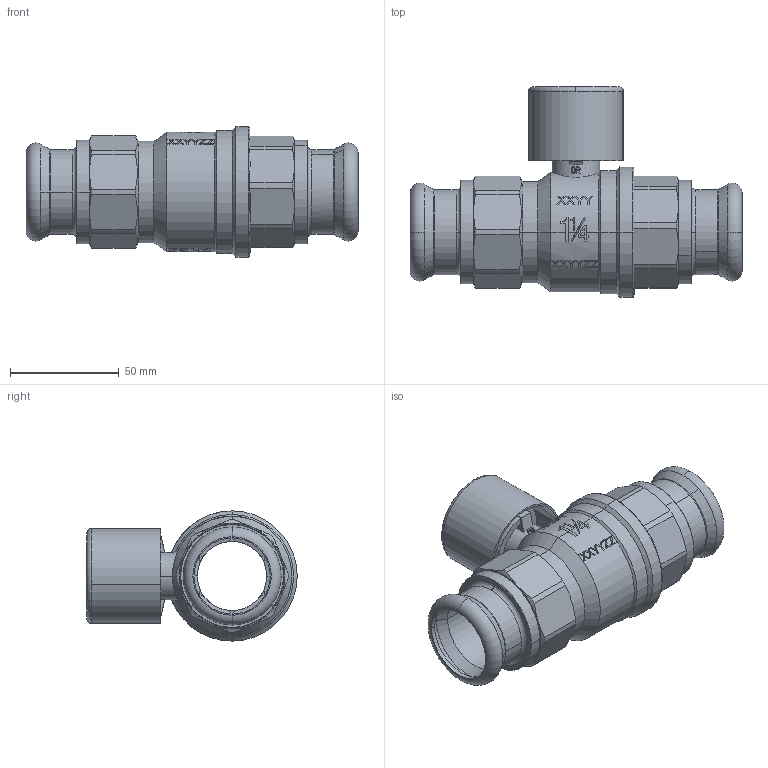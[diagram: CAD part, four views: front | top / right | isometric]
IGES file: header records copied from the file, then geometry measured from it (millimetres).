
Global section: file name: No Iges File Name specified; native system: AutoDesk Inventor R12.0; preprocessor: AutoDesk Inventor Iges Exporter R12.0; date: 20111212.105836; units: millimetre
Bounding box: 152.4 x 96.61 x 59.8 mm (x, y, z)
Volume: 167456.3 mm3; surface area: 69658.7 mm2
Topology: 1 solids, 1 shells, 977 faces, 2737 edges, 1824 vertices
Faces by surface type: plane 466, bspline 244, cylinder 89, revolution 82, cone 80, torus 16
